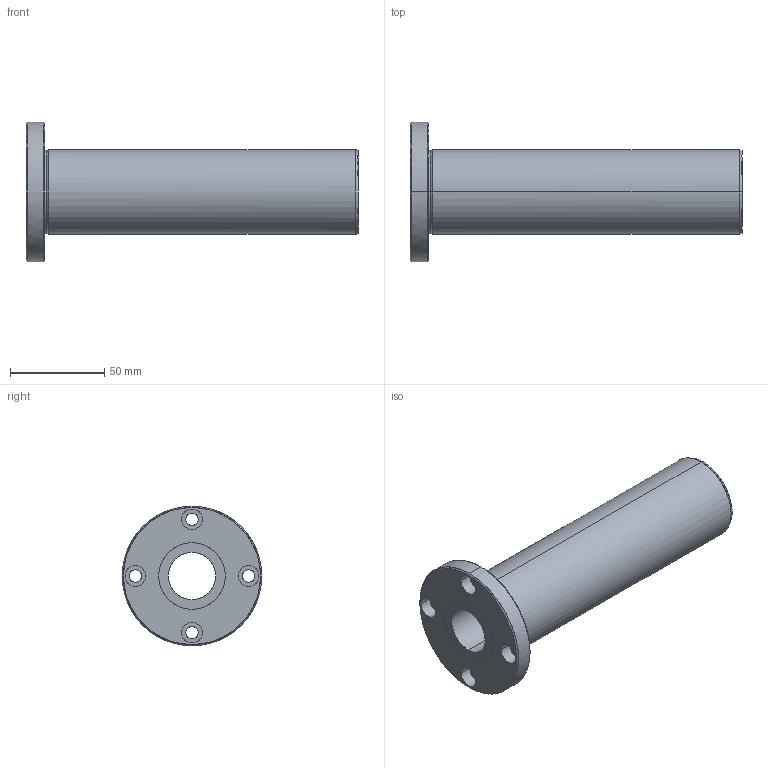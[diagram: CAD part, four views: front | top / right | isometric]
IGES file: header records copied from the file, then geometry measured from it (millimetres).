
Global section: file name: No Iges File Name specified; native system: AutoDesk Inventor R10; preprocessor: AutoDesk Inventor Iges Exporter R10; author: No Author specified; organization: No Organization specified; date: 20101216.172903; units: millimetre
Bounding box: 176 x 74 x 74 mm (x, y, z)
Surface area: 47950.8 mm2 (no closed solid volume)
Topology: 0 solids, 0 shells, 45 faces, 320 edges, 320 vertices
Faces by surface type: bspline 45
